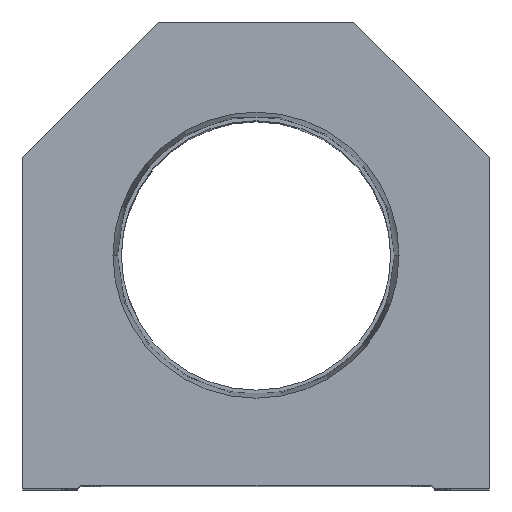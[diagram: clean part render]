
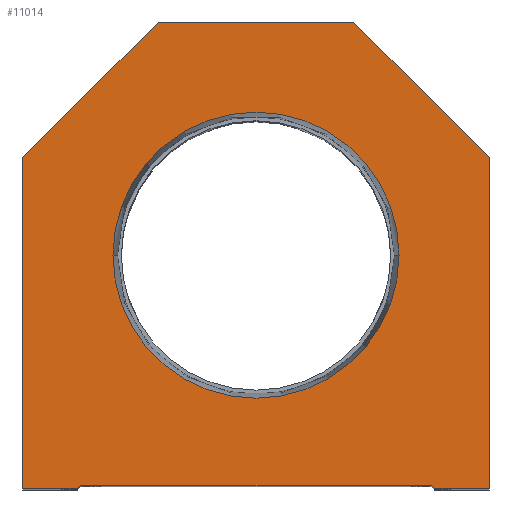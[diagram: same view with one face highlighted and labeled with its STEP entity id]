
A CAD part, top view. The second image highlights one B-rep face of the part: STEP entity #11014.
In plain terms, the highlighted planar face has unit normal (0, 0, 1).
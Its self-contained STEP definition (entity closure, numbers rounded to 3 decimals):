
#23 = EDGE_CURVE ( 'NONE', #39, #27, #16689, .T. ) ;
#27 = VERTEX_POINT ( 'NONE', #7229 ) ;
#39 = VERTEX_POINT ( 'NONE', #10270 ) ;
#228 = CARTESIAN_POINT ( 'NONE',  ( 28.6, 0., 0. ) ) ;
#230 = VECTOR ( 'NONE', #13155, 1000. ) ;
#407 = ORIENTED_EDGE ( 'NONE', *, *, #14205, .T. ) ;
#622 = CARTESIAN_POINT ( 'NONE',  ( -28.6, 0.5, 0. ) ) ;
#732 = DIRECTION ( 'NONE',  ( 0., 0., 1. ) ) ;
#889 = VERTEX_POINT ( 'NONE', #7489 ) ;
#1029 = DIRECTION ( 'NONE',  ( 0.707, 0.707, 0. ) ) ;
#1100 = ORIENTED_EDGE ( 'NONE', *, *, #12169, .T. ) ;
#1105 = EDGE_LOOP ( 'NONE', ( #8771, #11778, #8884, #1100, #9991, #15595, #407, #6884, #10144, #13804 ) ) ;
#1133 = VERTEX_POINT ( 'NONE', #8326 ) ;
#1431 = EDGE_CURVE ( 'NONE', #1133, #14367, #2894, .T. ) ;
#1573 = LINE ( 'NONE', #4299, #10865 ) ;
#2230 = LINE ( 'NONE', #15351, #10850 ) ;
#2285 = CARTESIAN_POINT ( 'NONE',  ( -29.1, 0., 0. ) ) ;
#2894 = CIRCLE ( 'NONE', #12758, 23.374 ) ;
#3021 = DIRECTION ( 'NONE',  ( -1., 0., 0. ) ) ;
#3067 = EDGE_CURVE ( 'NONE', #12280, #5376, #2230, .T. ) ;
#3139 = CARTESIAN_POINT ( 'NONE',  ( -38.1, 0., 0. ) ) ;
#3231 = VECTOR ( 'NONE', #4079, 1000. ) ;
#3272 = LINE ( 'NONE', #10889, #4347 ) ;
#3362 = LINE ( 'NONE', #8593, #16315 ) ;
#4079 = DIRECTION ( 'NONE',  ( 1., 0., 0. ) ) ;
#4206 = DIRECTION ( 'NONE',  ( 0.707, -0.707, 0. ) ) ;
#4299 = CARTESIAN_POINT ( 'NONE',  ( 16., 76.2, 0. ) ) ;
#4335 = LINE ( 'NONE', #5869, #15628 ) ;
#4347 = VECTOR ( 'NONE', #4206, 1000. ) ;
#4586 = CARTESIAN_POINT ( 'NONE',  ( 0., 38.1, 0. ) ) ;
#4899 = EDGE_LOOP ( 'NONE', ( #10234, #12525 ) ) ;
#5376 = VERTEX_POINT ( 'NONE', #6863 ) ;
#5396 = VERTEX_POINT ( 'NONE', #2285 ) ;
#5647 = CARTESIAN_POINT ( 'NONE',  ( -28.6, 0., 0. ) ) ;
#5869 = CARTESIAN_POINT ( 'NONE',  ( 38.1, 0., 0. ) ) ;
#5878 = LINE ( 'NONE', #3139, #13957 ) ;
#5929 = VERTEX_POINT ( 'NONE', #13549 ) ;
#6353 = DIRECTION ( 'NONE',  ( -0.707, -0.707, 0. ) ) ;
#6381 = DIRECTION ( 'NONE',  ( 1., 0., 0. ) ) ;
#6809 = CIRCLE ( 'NONE', #16630, 23.374 ) ;
#6863 = CARTESIAN_POINT ( 'NONE',  ( -38.1, 54.1, 0. ) ) ;
#6881 = CARTESIAN_POINT ( 'NONE',  ( -16., 76.2, 0. ) ) ;
#6884 = ORIENTED_EDGE ( 'NONE', *, *, #9879, .T. ) ;
#7229 = CARTESIAN_POINT ( 'NONE',  ( 28.6, 0.5, 0. ) ) ;
#7426 = CARTESIAN_POINT ( 'NONE',  ( 0., 38.1, 0. ) ) ;
#7489 = CARTESIAN_POINT ( 'NONE',  ( 38.1, 54.1, 0. ) ) ;
#8024 = EDGE_CURVE ( 'NONE', #5929, #5396, #10870, .T. ) ;
#8326 = CARTESIAN_POINT ( 'NONE',  ( 23.374, 38.1, 0. ) ) ;
#8352 = VERTEX_POINT ( 'NONE', #12214 ) ;
#8455 = FACE_BOUND ( 'NONE', #4899, .T. ) ;
#8512 = DIRECTION ( 'NONE',  ( 1., 0., 0. ) ) ;
#8539 = CARTESIAN_POINT ( 'NONE',  ( 0., 0., 0. ) ) ;
#8593 = CARTESIAN_POINT ( 'NONE',  ( -14.55, 14.55, 0. ) ) ;
#8771 = ORIENTED_EDGE ( 'NONE', *, *, #8024, .T. ) ;
#8884 = ORIENTED_EDGE ( 'NONE', *, *, #23, .T. ) ;
#9046 = DIRECTION ( 'NONE',  ( 0., 0., 1. ) ) ;
#9411 = EDGE_CURVE ( 'NONE', #5396, #39, #3362, .T. ) ;
#9742 = VERTEX_POINT ( 'NONE', #15890 ) ;
#9748 = DIRECTION ( 'NONE',  ( 0., -1., 0. ) ) ;
#9879 = EDGE_CURVE ( 'NONE', #15388, #12280, #1573, .T. ) ;
#9991 = ORIENTED_EDGE ( 'NONE', *, *, #10717, .T. ) ;
#10144 = ORIENTED_EDGE ( 'NONE', *, *, #3067, .T. ) ;
#10234 = ORIENTED_EDGE ( 'NONE', *, *, #1431, .F. ) ;
#10270 = CARTESIAN_POINT ( 'NONE',  ( -28.6, 0.5, 0. ) ) ;
#10601 = LINE ( 'NONE', #228, #3231 ) ;
#10636 = AXIS2_PLACEMENT_3D ( 'NONE', #8539, #732, #14292 ) ;
#10717 = EDGE_CURVE ( 'NONE', #9742, #8352, #10601, .T. ) ;
#10845 = DIRECTION ( 'NONE',  ( 0., 0., 1. ) ) ;
#10850 = VECTOR ( 'NONE', #6353, 1000. ) ;
#10865 = VECTOR ( 'NONE', #3021, 1000. ) ;
#10870 = LINE ( 'NONE', #5647, #11607 ) ;
#10889 = CARTESIAN_POINT ( 'NONE',  ( 14.55, 14.55, 0. ) ) ;
#11014 = ADVANCED_FACE ( 'NONE', ( #8455, #13703 ), #12381, .T. ) ;
#11019 = EDGE_CURVE ( 'NONE', #14367, #1133, #6809, .T. ) ;
#11103 = DIRECTION ( 'NONE',  ( 0., 1., 0. ) ) ;
#11607 = VECTOR ( 'NONE', #13465, 1000. ) ;
#11778 = ORIENTED_EDGE ( 'NONE', *, *, #9411, .T. ) ;
#12152 = EDGE_CURVE ( 'NONE', #5376, #5929, #5878, .T. ) ;
#12169 = EDGE_CURVE ( 'NONE', #27, #9742, #3272, .T. ) ;
#12211 = DIRECTION ( 'NONE',  ( 1., 0., 0. ) ) ;
#12214 = CARTESIAN_POINT ( 'NONE',  ( 38.1, 0., 0. ) ) ;
#12280 = VERTEX_POINT ( 'NONE', #6881 ) ;
#12381 = PLANE ( 'NONE',  #10636 ) ;
#12424 = LINE ( 'NONE', #16353, #230 ) ;
#12525 = ORIENTED_EDGE ( 'NONE', *, *, #11019, .F. ) ;
#12723 = VECTOR ( 'NONE', #8512, 1000. ) ;
#12758 = AXIS2_PLACEMENT_3D ( 'NONE', #4586, #10845, #12211 ) ;
#13155 = DIRECTION ( 'NONE',  ( -0.707, 0.707, 0. ) ) ;
#13465 = DIRECTION ( 'NONE',  ( 1., 0., 0. ) ) ;
#13549 = CARTESIAN_POINT ( 'NONE',  ( -38.1, 0., 0. ) ) ;
#13703 = FACE_OUTER_BOUND ( 'NONE', #1105, .T. ) ;
#13804 = ORIENTED_EDGE ( 'NONE', *, *, #12152, .T. ) ;
#13957 = VECTOR ( 'NONE', #9748, 1000. ) ;
#14205 = EDGE_CURVE ( 'NONE', #889, #15388, #12424, .T. ) ;
#14292 = DIRECTION ( 'NONE',  ( 1., 0., 0. ) ) ;
#14367 = VERTEX_POINT ( 'NONE', #16518 ) ;
#15351 = CARTESIAN_POINT ( 'NONE',  ( -38.1, 54.1, 0. ) ) ;
#15388 = VERTEX_POINT ( 'NONE', #15670 ) ;
#15595 = ORIENTED_EDGE ( 'NONE', *, *, #16163, .T. ) ;
#15628 = VECTOR ( 'NONE', #11103, 1000. ) ;
#15670 = CARTESIAN_POINT ( 'NONE',  ( 16., 76.2, 0. ) ) ;
#15890 = CARTESIAN_POINT ( 'NONE',  ( 29.1, 0., 0. ) ) ;
#16163 = EDGE_CURVE ( 'NONE', #8352, #889, #4335, .T. ) ;
#16315 = VECTOR ( 'NONE', #1029, 1000. ) ;
#16353 = CARTESIAN_POINT ( 'NONE',  ( 38.1, 54.1, 0. ) ) ;
#16518 = CARTESIAN_POINT ( 'NONE',  ( -23.374, 38.1, 0. ) ) ;
#16630 = AXIS2_PLACEMENT_3D ( 'NONE', #7426, #9046, #6381 ) ;
#16689 = LINE ( 'NONE', #622, #12723 ) ;
